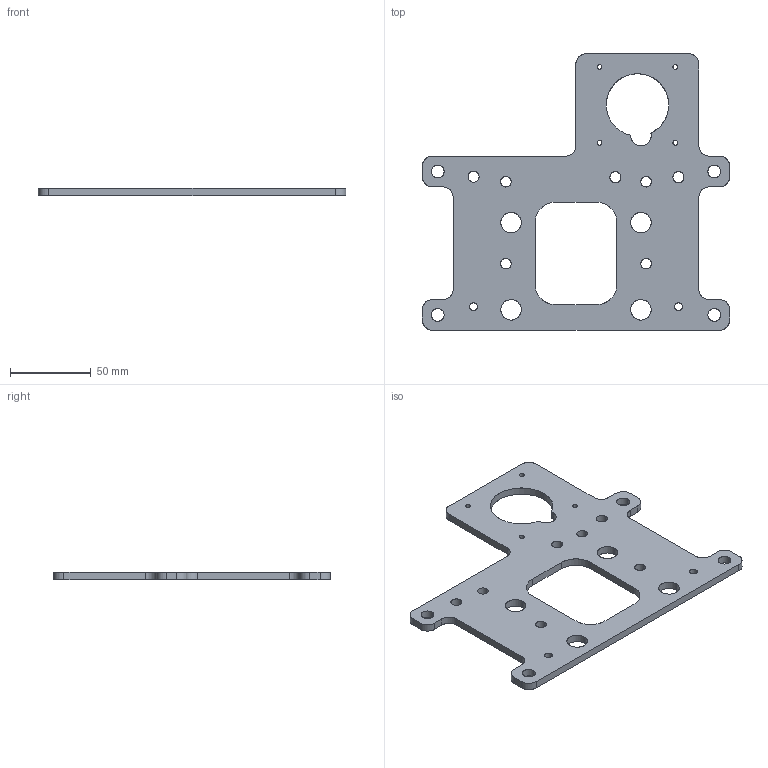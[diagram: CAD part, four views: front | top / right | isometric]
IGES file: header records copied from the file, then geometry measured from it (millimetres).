
Start section: SolidWorks IGES file using analytic representation for surfaces
Global section: file name: C:\Users\Public\Documents\Plasma and CNC\CNC Router\Exports for OpenBuilds\Gantry Carriage Plate.IGS; native system: SolidWorks 2010; preprocessor: SolidWorks 2010; author: Neil; date: 140127.163249; units: inch
Bounding box: 190.5 x 171.45 x 4.76 mm (x, y, z)
Surface area: 42211.1 mm2 (no closed solid volume)
Topology: 0 solids, 0 shells, 90 faces, 2028 edges, 2028 vertices
Faces by surface type: revolution 68, bspline 22
